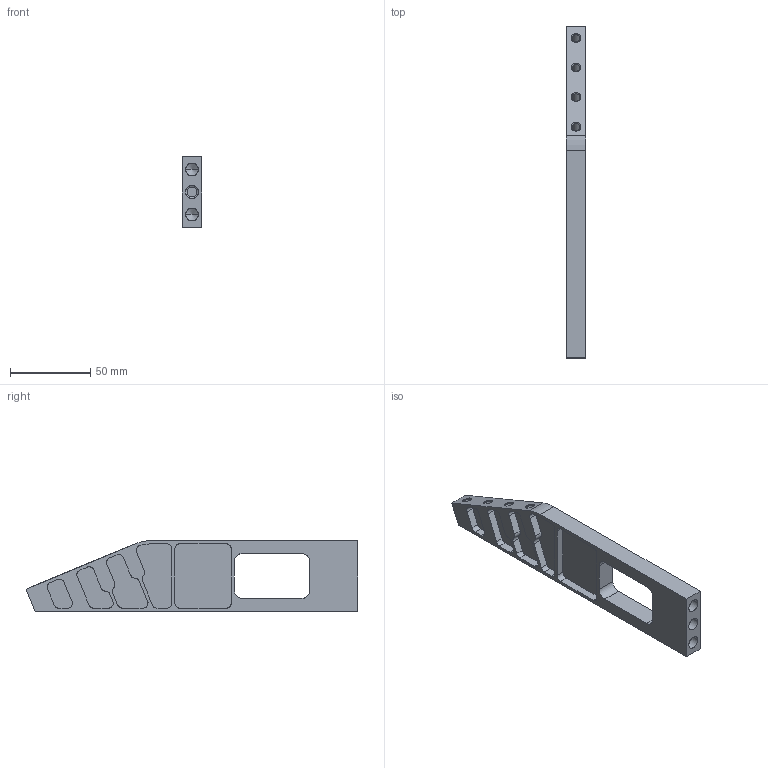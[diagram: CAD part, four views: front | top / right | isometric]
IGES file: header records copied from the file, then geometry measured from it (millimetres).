
Global section: file name: 0393-18-83; native system: VariCAD 2020-1.02; preprocessor: 5.3; author: LVVS3874K00E; organization: Elphe, Inc.; date: 20260812.110305; units: millimetre
Bounding box: 12 x 206.77 x 44 mm (x, y, z)
Surface area: 28456.5 mm2 (no closed solid volume)
Topology: 0 solids, 0 shells, 172 faces, 900 edges, 896 vertices
Faces by surface type: revolution 99, bspline 73
